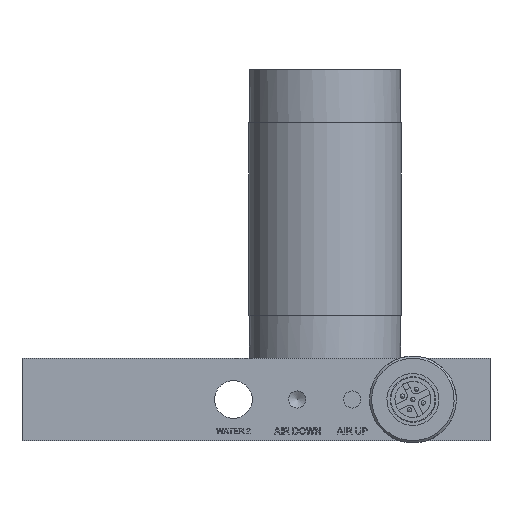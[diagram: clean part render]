
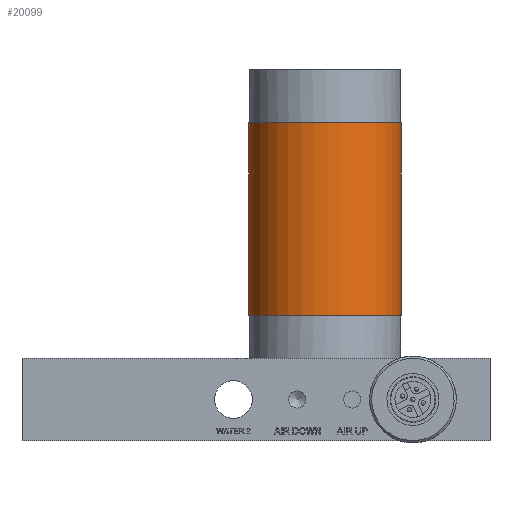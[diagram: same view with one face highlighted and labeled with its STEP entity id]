
A CAD part, front view. The second image highlights one B-rep face of the part: STEP entity #20099.
In plain terms, the highlighted cylindrical face has radius 17.59 mm (diameter 35.179 mm), a full revolution.
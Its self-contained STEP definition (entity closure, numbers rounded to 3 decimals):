
#5568=FACE_BOUND($,#7739,.T.);
#6522=FACE_OUTER_BOUND($,#7738,.T.);
#7738=EDGE_LOOP($,(#17353));
#7739=EDGE_LOOP($,(#17354));
#8044=CIRCLE($,#21004,17.59);
#8045=CIRCLE($,#21005,17.59);
#9775=VERTEX_POINT($,#33973);
#9776=VERTEX_POINT($,#33975);
#12346=EDGE_CURVE($,#9775,#9775,#8044,.T.);
#12347=EDGE_CURVE($,#9776,#9776,#8045,.T.);
#17353=ORIENTED_EDGE($,*,*,#12346,.T.);
#17354=ORIENTED_EDGE($,*,*,#12347,.F.);
#18071=CYLINDRICAL_SURFACE($,#21003,17.59);
#20099=ADVANCED_FACE($,(#6522,#5568),#18071,.T.);
#21003=AXIS2_PLACEMENT_3D($,#33972,#24577,#24578);
#21004=AXIS2_PLACEMENT_3D($,#33974,#24579,#24580);
#21005=AXIS2_PLACEMENT_3D($,#33976,#24581,#24582);
#24577=DIRECTION('center_axis',(0.,0.,
1.));
#24578=DIRECTION('ref_axis',(-1.,-0.026,0.));
#24579=DIRECTION('center_axis',(0.,0.,
-1.));
#24580=DIRECTION('ref_axis',(-1.,-0.026,0.));
#24581=DIRECTION('center_axis',(0.,0.,
-1.));
#24582=DIRECTION('ref_axis',(-1.,-0.026,0.));
#33972=CARTESIAN_POINT('Origin',(0.,0.,28.892));
#33973=CARTESIAN_POINT('',(17.583,0.46,73.342));
#33974=CARTESIAN_POINT('Origin',(0.,0.,
73.342));
#33975=CARTESIAN_POINT('',(17.583,0.46,28.892));
#33976=CARTESIAN_POINT('Origin',(0.,0.,28.892));
